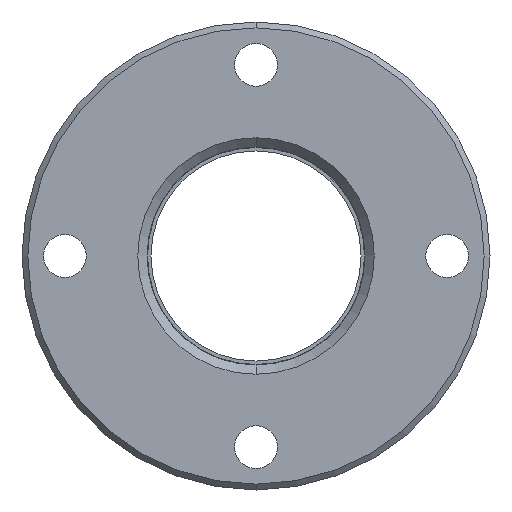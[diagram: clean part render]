
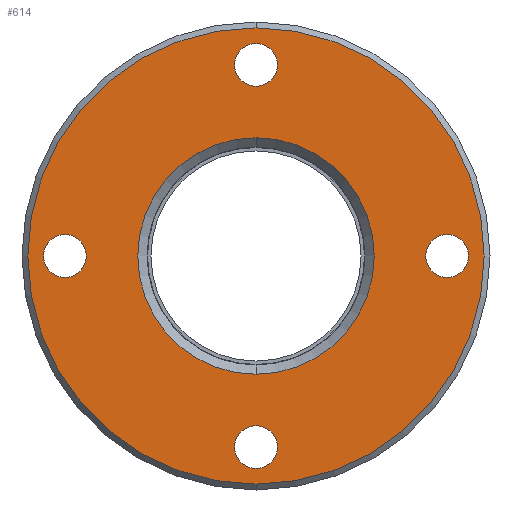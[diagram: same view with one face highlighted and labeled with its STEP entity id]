
A CAD part, front view. The second image highlights one B-rep face of the part: STEP entity #614.
In plain terms, the highlighted planar face has unit normal (0, -1, 0).
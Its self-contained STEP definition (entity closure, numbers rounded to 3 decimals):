
#105=CARTESIAN_POINT('',(0.,-12.7,0.));
#106=DIRECTION('',(0.,-1.,0.));
#107=DIRECTION('',(0.,0.,1.));
#108=AXIS2_PLACEMENT_3D('',#105,#106,#107);
#110=CARTESIAN_POINT('',(0.,-12.7,0.));
#111=DIRECTION('',(0.,1.,0.));
#112=DIRECTION('',(0.,0.,1.));
#113=AXIS2_PLACEMENT_3D('',#110,#111,#112);
#115=CARTESIAN_POINT('',(49.2,-12.7,0.));
#116=DIRECTION('',(0.,1.,0.));
#117=DIRECTION('',(1.,0.,0.));
#118=AXIS2_PLACEMENT_3D('',#115,#116,#117);
#120=CARTESIAN_POINT('',(49.2,-12.7,0.));
#121=DIRECTION('',(0.,1.,0.));
#122=DIRECTION('',(-1.,0.,0.));
#123=AXIS2_PLACEMENT_3D('',#120,#121,#122);
#125=CARTESIAN_POINT('',(0.,-12.7,-49.2));
#126=DIRECTION('',(0.,1.,0.));
#127=DIRECTION('',(0.,0.,-1.));
#128=AXIS2_PLACEMENT_3D('',#125,#126,#127);
#130=CARTESIAN_POINT('',(0.,-12.7,-49.2));
#131=DIRECTION('',(0.,1.,0.));
#132=DIRECTION('',(0.,0.,1.));
#133=AXIS2_PLACEMENT_3D('',#130,#131,#132);
#135=CARTESIAN_POINT('',(-49.2,-12.7,0.));
#136=DIRECTION('',(0.,1.,0.));
#137=DIRECTION('',(-1.,0.,0.));
#138=AXIS2_PLACEMENT_3D('',#135,#136,#137);
#140=CARTESIAN_POINT('',(-49.2,-12.7,0.));
#141=DIRECTION('',(0.,1.,0.));
#142=DIRECTION('',(1.,0.,0.));
#143=AXIS2_PLACEMENT_3D('',#140,#141,#142);
#145=CARTESIAN_POINT('',(0.,-12.7,49.2));
#146=DIRECTION('',(0.,1.,0.));
#147=DIRECTION('',(0.,0.,1.));
#148=AXIS2_PLACEMENT_3D('',#145,#146,#147);
#150=CARTESIAN_POINT('',(0.,-12.7,49.2));
#151=DIRECTION('',(0.,1.,0.));
#152=DIRECTION('',(0.,0.,-1.));
#153=AXIS2_PLACEMENT_3D('',#150,#151,#152);
#155=CARTESIAN_POINT('',(0.,-12.7,0.));
#156=DIRECTION('',(0.,1.,0.));
#157=DIRECTION('',(0.,0.,1.));
#158=AXIS2_PLACEMENT_3D('',#155,#156,#157);
#168=CARTESIAN_POINT('',(0.,-12.7,0.));
#169=DIRECTION('',(0.,-1.,0.));
#170=DIRECTION('',(0.,0.,1.));
#171=AXIS2_PLACEMENT_3D('',#168,#169,#170);
#359=CARTESIAN_POINT('',(0.,-12.7,58.75));
#360=VERTEX_POINT('',#359);
#361=CARTESIAN_POINT('',(0.,-12.7,30.45));
#363=VERTEX_POINT('',#361);
#375=CARTESIAN_POINT('',(0.,-12.7,-58.75));
#376=VERTEX_POINT('',#375);
#377=CARTESIAN_POINT('',(0.,-12.7,-30.45));
#379=VERTEX_POINT('',#377);
#397=CARTESIAN_POINT('',(54.7,-12.7,0.));
#398=CARTESIAN_POINT('',(43.7,-12.7,0.));
#399=VERTEX_POINT('',#397);
#400=VERTEX_POINT('',#398);
#413=CARTESIAN_POINT('',(0.,-12.7,-54.7));
#414=CARTESIAN_POINT('',(0.,-12.7,-43.7));
#415=VERTEX_POINT('',#413);
#416=VERTEX_POINT('',#414);
#429=CARTESIAN_POINT('',(-54.7,-12.7,0.));
#430=CARTESIAN_POINT('',(-43.7,-12.7,0.));
#431=VERTEX_POINT('',#429);
#432=VERTEX_POINT('',#430);
#445=CARTESIAN_POINT('',(0.,-12.7,54.7));
#446=CARTESIAN_POINT('',(0.,-12.7,43.7));
#447=VERTEX_POINT('',#445);
#448=VERTEX_POINT('',#446);
#575=CARTESIAN_POINT('',(0.,-12.7,0.));
#576=DIRECTION('',(0.,1.,0.));
#577=DIRECTION('',(0.,0.,-1.));
#578=AXIS2_PLACEMENT_3D('',#575,#576,#577);
#579=PLANE('',#578);
#580=ORIENTED_EDGE('',*,*,#568,.F.);
#581=ORIENTED_EDGE('',*,*,#557,.T.);
#582=EDGE_LOOP('',(#580,#581));
#583=FACE_OUTER_BOUND('',#582,.F.);
#585=ORIENTED_EDGE('',*,*,#584,.F.);
#587=ORIENTED_EDGE('',*,*,#586,.T.);
#588=EDGE_LOOP('',(#585,#587));
#589=FACE_BOUND('',#588,.F.);
#591=ORIENTED_EDGE('',*,*,#590,.F.);
#593=ORIENTED_EDGE('',*,*,#592,.F.);
#594=EDGE_LOOP('',(#591,#593));
#595=FACE_BOUND('',#594,.F.);
#597=ORIENTED_EDGE('',*,*,#596,.F.);
#599=ORIENTED_EDGE('',*,*,#598,.F.);
#600=EDGE_LOOP('',(#597,#599));
#601=FACE_BOUND('',#600,.F.);
#603=ORIENTED_EDGE('',*,*,#602,.F.);
#605=ORIENTED_EDGE('',*,*,#604,.F.);
#606=EDGE_LOOP('',(#603,#605));
#607=FACE_BOUND('',#606,.F.);
#609=ORIENTED_EDGE('',*,*,#608,.F.);
#611=ORIENTED_EDGE('',*,*,#610,.F.);
#612=EDGE_LOOP('',(#609,#611));
#613=FACE_BOUND('',#612,.F.);
#614=ADVANCED_FACE('',(#583,#589,#595,#601,#607,#613),#579,.F.);
#109=CIRCLE('',#108,58.75);
#114=CIRCLE('',#113,58.75);
#119=CIRCLE('',#118,5.5);
#124=CIRCLE('',#123,5.5);
#129=CIRCLE('',#128,5.5);
#134=CIRCLE('',#133,5.5);
#139=CIRCLE('',#138,5.5);
#144=CIRCLE('',#143,5.5);
#149=CIRCLE('',#148,5.5);
#154=CIRCLE('',#153,5.5);
#159=CIRCLE('',#158,30.45);
#172=CIRCLE('',#171,30.45);
#557=EDGE_CURVE('',#360,#376,#114,.T.);
#568=EDGE_CURVE('',#360,#376,#109,.T.);
#584=EDGE_CURVE('',#363,#379,#159,.T.);
#586=EDGE_CURVE('',#363,#379,#172,.T.);
#590=EDGE_CURVE('',#399,#400,#119,.T.);
#592=EDGE_CURVE('',#400,#399,#124,.T.);
#596=EDGE_CURVE('',#415,#416,#129,.T.);
#598=EDGE_CURVE('',#416,#415,#134,.T.);
#602=EDGE_CURVE('',#431,#432,#139,.T.);
#604=EDGE_CURVE('',#432,#431,#144,.T.);
#608=EDGE_CURVE('',#447,#448,#149,.T.);
#610=EDGE_CURVE('',#448,#447,#154,.T.);
